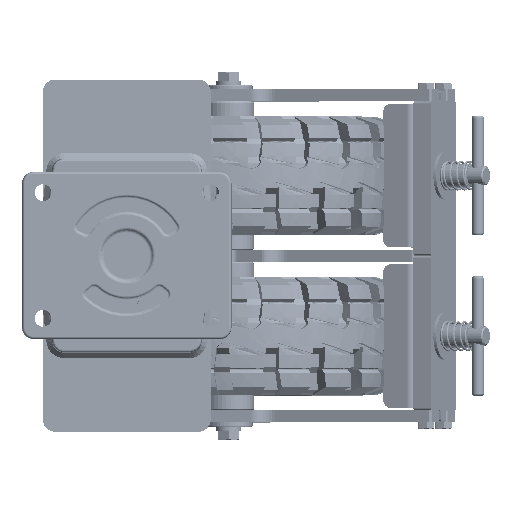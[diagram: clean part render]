
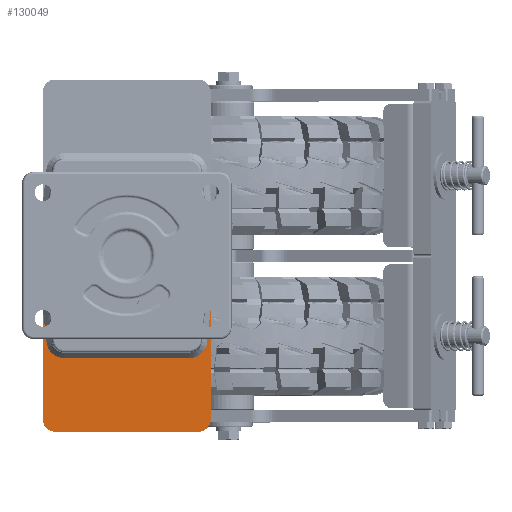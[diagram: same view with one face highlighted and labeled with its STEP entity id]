
A CAD part, top view. The second image highlights one B-rep face of the part: STEP entity #130049.
In plain terms, the highlighted planar face has unit normal (0, 0, 1).
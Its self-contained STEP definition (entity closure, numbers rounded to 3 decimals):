
#16585=LINE('',#237051,#22251);
#16587=LINE('',#237144,#22253);
#16589=LINE('',#237236,#22255);
#16616=LINE('',#237288,#22282);
#16617=LINE('',#237292,#22283);
#16618=LINE('',#237295,#22284);
#22251=VECTOR('',#153977,10.);
#22253=VECTOR('',#153981,10.);
#22255=VECTOR('',#153985,10.);
#22282=VECTOR('',#154040,10.);
#22283=VECTOR('',#154043,10.);
#22284=VECTOR('',#154046,10.);
#25777=PLANE('',#137653);
#30724=FACE_OUTER_BOUND('',#38215,.T.);
#38215=EDGE_LOOP('',(#109238,#109239,#109240,#109241,#109242,#109243,#109244,
#109245,#109246,#109247));
#46397=B_SPLINE_CURVE_WITH_KNOTS('',3,(#237110,#237111,#237112,#237113,
#237114,#237115,#237116,#237117,#237118,#237119,#237120,#237121),
 .UNSPECIFIED.,.F.,.F.,(4,2,2,2,2,4),(-1.,-0.807,-0.602,
-0.398,-0.193,0.),.UNSPECIFIED.);
#46401=B_SPLINE_CURVE_WITH_KNOTS('',3,(#237203,#237204,#237205,#237206,
#237207,#237208,#237209,#237210,#237211,#237212,#237213,#237214),
 .UNSPECIFIED.,.F.,.F.,(4,2,2,2,2,4),(-1.,-0.807,-0.602,
-0.398,-0.193,0.),.UNSPECIFIED.);
#52739=CIRCLE('',#137654,10.);
#52740=CIRCLE('',#137655,10.);
#61923=VERTEX_POINT('',#237014);
#61927=VERTEX_POINT('',#237023);
#61935=VERTEX_POINT('',#237050);
#61937=VERTEX_POINT('',#237109);
#61939=VERTEX_POINT('',#237143);
#61941=VERTEX_POINT('',#237202);
#61953=VERTEX_POINT('',#237287);
#61954=VERTEX_POINT('',#237289);
#61955=VERTEX_POINT('',#237291);
#61956=VERTEX_POINT('',#237293);
#78456=EDGE_CURVE('',#61935,#61927,#16585,.T.);
#78459=EDGE_CURVE('',#61937,#61935,#46397,.T.);
#78462=EDGE_CURVE('',#61939,#61937,#16587,.T.);
#78465=EDGE_CURVE('',#61941,#61939,#46401,.T.);
#78468=EDGE_CURVE('',#61923,#61941,#16589,.T.);
#78495=EDGE_CURVE('',#61927,#61953,#16616,.T.);
#78496=EDGE_CURVE('',#61953,#61954,#52739,.T.);
#78497=EDGE_CURVE('',#61954,#61955,#16617,.T.);
#78498=EDGE_CURVE('',#61955,#61956,#52740,.T.);
#78499=EDGE_CURVE('',#61956,#61923,#16618,.T.);
#109238=ORIENTED_EDGE('',*,*,#78468,.T.);
#109239=ORIENTED_EDGE('',*,*,#78465,.T.);
#109240=ORIENTED_EDGE('',*,*,#78462,.T.);
#109241=ORIENTED_EDGE('',*,*,#78459,.T.);
#109242=ORIENTED_EDGE('',*,*,#78456,.T.);
#109243=ORIENTED_EDGE('',*,*,#78495,.T.);
#109244=ORIENTED_EDGE('',*,*,#78496,.T.);
#109245=ORIENTED_EDGE('',*,*,#78497,.T.);
#109246=ORIENTED_EDGE('',*,*,#78498,.T.);
#109247=ORIENTED_EDGE('',*,*,#78499,.T.);
#130049=ADVANCED_FACE('',(#30724),#25777,.T.);
#137653=AXIS2_PLACEMENT_3D('',#237286,#154038,#154039);
#137654=AXIS2_PLACEMENT_3D('',#237290,#154041,#154042);
#137655=AXIS2_PLACEMENT_3D('',#237294,#154044,#154045);
#153977=DIRECTION('',(-0.11,0.994,0.));
#153981=DIRECTION('',(-1.,0.,0.));
#153985=DIRECTION('',(-0.11,-0.994,0.));
#154038=DIRECTION('center_axis',(0.,0.,
1.));
#154039=DIRECTION('ref_axis',(1.,0.,0.));
#154040=DIRECTION('',(0.,-1.,0.));
#154041=DIRECTION('center_axis',(0.,0.,
1.));
#154042=DIRECTION('ref_axis',(-1.,0.,0.));
#154043=DIRECTION('',(1.,0.,0.));
#154044=DIRECTION('center_axis',(0.,0.,
1.));
#154045=DIRECTION('ref_axis',(0.,-1.,0.));
#154046=DIRECTION('',(0.,1.,0.));
#237014=CARTESIAN_POINT('',(70.,-45.094,-41.));
#237023=CARTESIAN_POINT('',(-70.,-45.094,-41.));
#237050=CARTESIAN_POINT('',(-67.011,-72.229,-41.));
#237051=CARTESIAN_POINT('',(-72.034,-26.627,-41.));
#237109=CARTESIAN_POINT('',(-52.178,-85.517,-41.));
#237110=CARTESIAN_POINT('Ctrl Pts',(-52.178,-85.517,
-41.));
#237111=CARTESIAN_POINT('Ctrl Pts',(-53.626,-85.517,
-41.));
#237112=CARTESIAN_POINT('Ctrl Pts',(-55.142,-85.287,
-41.));
#237113=CARTESIAN_POINT('Ctrl Pts',(-57.855,-84.474,
-41.));
#237114=CARTESIAN_POINT('Ctrl Pts',(-59.192,-83.852,
-41.));
#237115=CARTESIAN_POINT('Ctrl Pts',(-61.626,-82.245,
-41.));
#237116=CARTESIAN_POINT('Ctrl Pts',(-62.723,-81.261,
-41.));
#237117=CARTESIAN_POINT('Ctrl Pts',(-64.587,-79.018,
-41.));
#237118=CARTESIAN_POINT('Ctrl Pts',(-65.352,-77.758,
-41.));
#237119=CARTESIAN_POINT('Ctrl Pts',(-66.457,-75.15,
-41.));
#237120=CARTESIAN_POINT('Ctrl Pts',(-66.852,-73.668,
-41.));
#237121=CARTESIAN_POINT('Ctrl Pts',(-67.011,-72.229,
-41.));
#237143=CARTESIAN_POINT('',(52.178,-85.517,-41.));
#237144=CARTESIAN_POINT('',(-26.089,-85.517,-41.));
#237202=CARTESIAN_POINT('',(67.011,-72.229,-41.));
#237203=CARTESIAN_POINT('Ctrl Pts',(67.011,-72.229,
-41.));
#237204=CARTESIAN_POINT('Ctrl Pts',(66.852,-73.668,
-41.));
#237205=CARTESIAN_POINT('Ctrl Pts',(66.457,-75.15,
-41.));
#237206=CARTESIAN_POINT('Ctrl Pts',(65.352,-77.758,
-41.));
#237207=CARTESIAN_POINT('Ctrl Pts',(64.587,-79.018,
-41.));
#237208=CARTESIAN_POINT('Ctrl Pts',(62.723,-81.261,
-41.));
#237209=CARTESIAN_POINT('Ctrl Pts',(61.626,-82.245,
-41.));
#237210=CARTESIAN_POINT('Ctrl Pts',(59.192,-83.852,
-41.));
#237211=CARTESIAN_POINT('Ctrl Pts',(57.855,-84.474,
-41.));
#237212=CARTESIAN_POINT('Ctrl Pts',(55.142,-85.287,
-41.));
#237213=CARTESIAN_POINT('Ctrl Pts',(53.626,-85.517,
-41.));
#237214=CARTESIAN_POINT('Ctrl Pts',(52.178,-85.517,
-41.));
#237236=CARTESIAN_POINT('',(70.54,-40.194,-41.));
#237286=CARTESIAN_POINT('Origin',(0.,0.,
-41.));
#237287=CARTESIAN_POINT('',(-70.,-137.,-41.));
#237288=CARTESIAN_POINT('',(-70.,137.,-41.));
#237289=CARTESIAN_POINT('',(-60.,-147.,-41.));
#237290=CARTESIAN_POINT('Origin',(-60.,-137.,-41.));
#237291=CARTESIAN_POINT('',(60.,-147.,-41.));
#237292=CARTESIAN_POINT('',(-60.,-147.,-41.));
#237293=CARTESIAN_POINT('',(70.,-137.,-41.));
#237294=CARTESIAN_POINT('Origin',(60.,-137.,-41.));
#237295=CARTESIAN_POINT('',(70.,-137.,-41.));
